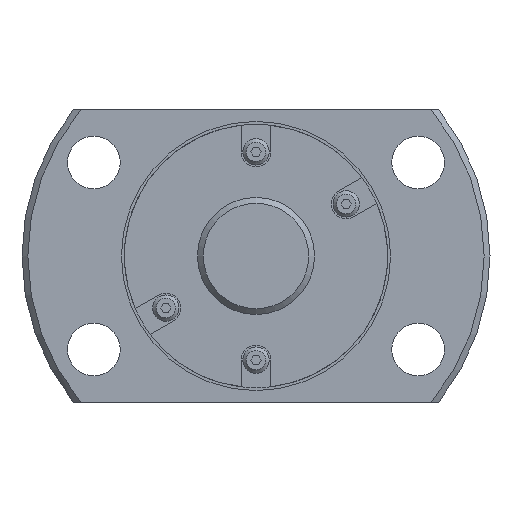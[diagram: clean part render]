
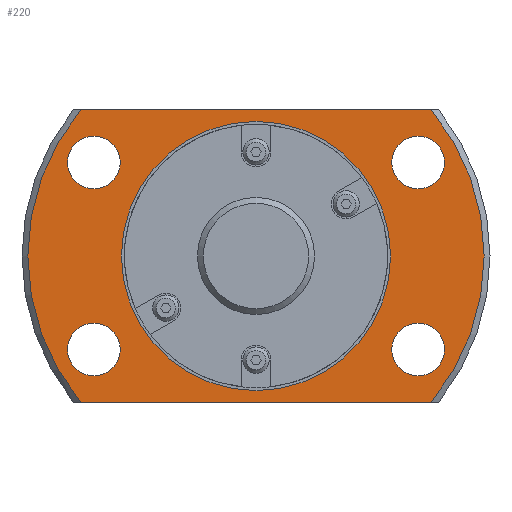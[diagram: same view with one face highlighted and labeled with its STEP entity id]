
A CAD part, left-side view. The second image highlights one B-rep face of the part: STEP entity #220.
In plain terms, the highlighted planar face has unit normal (-1, 0, 0).
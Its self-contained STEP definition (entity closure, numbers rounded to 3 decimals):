
#220 = ADVANCED_FACE( '', ( #500, #501, #502, #503, #504, #505 ), #506, .F. );
#500 = FACE_OUTER_BOUND( '', #866, .T. );
#501 = FACE_BOUND( '', #867, .T. );
#502 = FACE_BOUND( '', #868, .T. );
#503 = FACE_BOUND( '', #869, .T. );
#504 = FACE_BOUND( '', #870, .T. );
#505 = FACE_BOUND( '', #871, .T. );
#506 = PLANE( '', #872 );
#866 = EDGE_LOOP( '', ( #1331, #1332, #1333, #1334 ) );
#867 = EDGE_LOOP( '', ( #1335 ) );
#868 = EDGE_LOOP( '', ( #1336 ) );
#869 = EDGE_LOOP( '', ( #1337 ) );
#870 = EDGE_LOOP( '', ( #1338 ) );
#871 = EDGE_LOOP( '', ( #1339 ) );
#872 = AXIS2_PLACEMENT_3D( '', #1340, #1341, #1342 );
#1331 = ORIENTED_EDGE( '', *, *, #2046, .F. );
#1332 = ORIENTED_EDGE( '', *, *, #2047, .T. );
#1333 = ORIENTED_EDGE( '', *, *, #2048, .F. );
#1334 = ORIENTED_EDGE( '', *, *, #2049, .T. );
#1335 = ORIENTED_EDGE( '', *, *, #2050, .T. );
#1336 = ORIENTED_EDGE( '', *, *, #2051, .T. );
#1337 = ORIENTED_EDGE( '', *, *, #1967, .T. );
#1338 = ORIENTED_EDGE( '', *, *, #2028, .T. );
#1339 = ORIENTED_EDGE( '', *, *, #2052, .T. );
#1340 = CARTESIAN_POINT( '', ( 22., 11.25, 0. ) );
#1341 = DIRECTION( '', ( 1., 0., 0. ) );
#1342 = DIRECTION( '', ( 0., 0., -1. ) );
#1967 = EDGE_CURVE( '', #2301, #2301, #2302, .T. );
#2028 = EDGE_CURVE( '', #2407, #2407, #2408, .T. );
#2046 = EDGE_CURVE( '', #2434, #2435, #2436, .T. );
#2047 = EDGE_CURVE( '', #2434, #2437, #2438, .T. );
#2048 = EDGE_CURVE( '', #2439, #2437, #2440, .T. );
#2049 = EDGE_CURVE( '', #2439, #2435, #2441, .T. );
#2050 = EDGE_CURVE( '', #2442, #2442, #2443, .T. );
#2051 = EDGE_CURVE( '', #2444, #2444, #2445, .T. );
#2052 = EDGE_CURVE( '', #2446, #2446, #2447, .T. );
#2301 = VERTEX_POINT( '', #2766 );
#2302 = CIRCLE( '', #2767, 2.25 );
#2407 = VERTEX_POINT( '', #2911 );
#2408 = CIRCLE( '', #2912, 2.25 );
#2434 = VERTEX_POINT( '', #2944 );
#2435 = VERTEX_POINT( '', #2945 );
#2436 = CIRCLE( '', #2946, 19.5 );
#2437 = VERTEX_POINT( '', #2947 );
#2438 = LINE( '', #2948, #2949 );
#2439 = VERTEX_POINT( '', #2950 );
#2440 = CIRCLE( '', #2951, 19.5 );
#2441 = LINE( '', #2952, #2953 );
#2442 = VERTEX_POINT( '', #2954 );
#2443 = CIRCLE( '', #2955, 2.25 );
#2444 = VERTEX_POINT( '', #2956 );
#2445 = CIRCLE( '', #2957, 2.25 );
#2446 = VERTEX_POINT( '', #2958 );
#2447 = CIRCLE( '', #2959, 11.25 );
#2766 = CARTESIAN_POINT( '', ( 22., 13.856, -10.25 ) );
#2767 = AXIS2_PLACEMENT_3D( '', #3340, #3341, #3342 );
#2911 = CARTESIAN_POINT( '', ( 22., 13.856, 5.75 ) );
#2912 = AXIS2_PLACEMENT_3D( '', #3406, #3407, #3408 );
#2944 = CARTESIAN_POINT( '', ( 22., 14.967, -12.5 ) );
#2945 = CARTESIAN_POINT( '', ( 22., 14.967, 12.5 ) );
#2946 = AXIS2_PLACEMENT_3D( '', #3430, #3431, #3432 );
#2947 = CARTESIAN_POINT( '', ( 22., -14.967, -12.5 ) );
#2948 = CARTESIAN_POINT( '', ( 22., 11.25, -12.5 ) );
#2949 = VECTOR( '', #3433, 1000. );
#2950 = CARTESIAN_POINT( '', ( 22., -14.967, 12.5 ) );
#2951 = AXIS2_PLACEMENT_3D( '', #3434, #3435, #3436 );
#2952 = CARTESIAN_POINT( '', ( 22., 11.25, 12.5 ) );
#2953 = VECTOR( '', #3437, 1000. );
#2954 = CARTESIAN_POINT( '', ( 22., -13.856, -10.25 ) );
#2955 = AXIS2_PLACEMENT_3D( '', #3438, #3439, #3440 );
#2956 = CARTESIAN_POINT( '', ( 22., -13.856, 5.75 ) );
#2957 = AXIS2_PLACEMENT_3D( '', #3441, #3442, #3443 );
#2958 = CARTESIAN_POINT( '', ( 22., 0., -11.25 ) );
#2959 = AXIS2_PLACEMENT_3D( '', #3444, #3445, #3446 );
#3340 = CARTESIAN_POINT( '', ( 22., 13.856, -8. ) );
#3341 = DIRECTION( '', ( 1., 0., 0. ) );
#3342 = DIRECTION( '', ( 0., 0., -1. ) );
#3406 = CARTESIAN_POINT( '', ( 22., 13.856, 8. ) );
#3407 = DIRECTION( '', ( 1., 0., 0. ) );
#3408 = DIRECTION( '', ( 0., 0., -1. ) );
#3430 = CARTESIAN_POINT( '', ( 22., 0., 0. ) );
#3431 = DIRECTION( '', ( 1., 0., 0. ) );
#3432 = DIRECTION( '', ( 0., 0., -1. ) );
#3433 = DIRECTION( '', ( 0., -1., 0. ) );
#3434 = CARTESIAN_POINT( '', ( 22., 0., 0. ) );
#3435 = DIRECTION( '', ( 1., 0., 0. ) );
#3436 = DIRECTION( '', ( 0., 0., -1. ) );
#3437 = DIRECTION( '', ( 0., 1., 0. ) );
#3438 = CARTESIAN_POINT( '', ( 22., -13.856, -8. ) );
#3439 = DIRECTION( '', ( 1., 0., 0. ) );
#3440 = DIRECTION( '', ( 0., 0., -1. ) );
#3441 = CARTESIAN_POINT( '', ( 22., -13.856, 8. ) );
#3442 = DIRECTION( '', ( 1., 0., 0. ) );
#3443 = DIRECTION( '', ( 0., 0., -1. ) );
#3444 = CARTESIAN_POINT( '', ( 22., 0., 0. ) );
#3445 = DIRECTION( '', ( 1., 0., 0. ) );
#3446 = DIRECTION( '', ( 0., 0., -1. ) );
